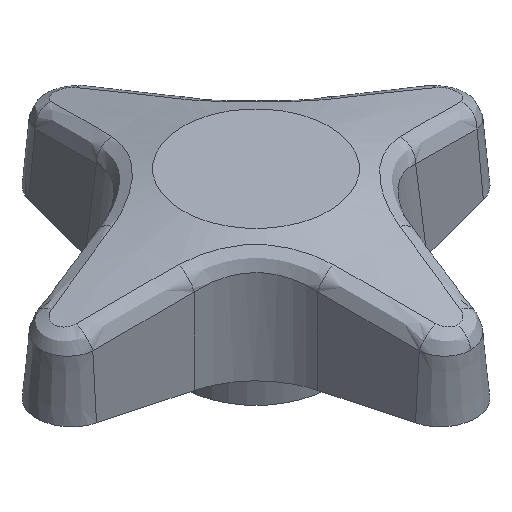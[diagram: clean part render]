
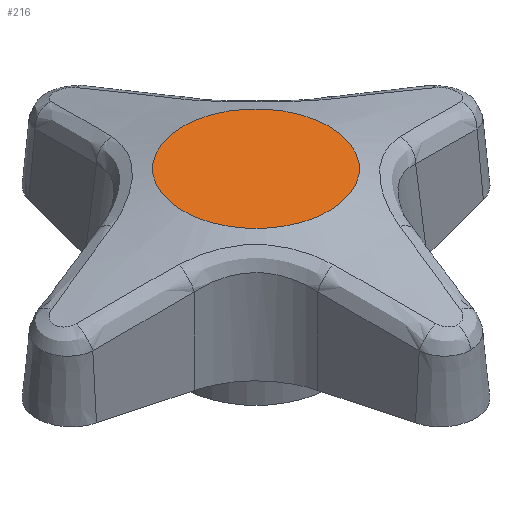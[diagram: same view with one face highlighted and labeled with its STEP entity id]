
A CAD part, isometric view. The second image highlights one B-rep face of the part: STEP entity #216.
In plain terms, the highlighted planar face has unit normal (0, 0, 1).
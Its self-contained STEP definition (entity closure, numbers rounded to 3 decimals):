
#200=CARTESIAN_POINT('',(0.,0.,26.2));
#201=DIRECTION('',(1.,0.,0.));
#202=DIRECTION('',(0.,0.,1.));
#203=AXIS2_PLACEMENT_3D('',#200,#202,#201);
#204=PLANE('',#203);
#205=CARTESIAN_POINT('',(0.,-12.5,26.2));
#206=VERTEX_POINT('',#205);
#207=CARTESIAN_POINT('',(0.,0.,26.2));
#208=DIRECTION('',(0.,-1.,0.));
#209=DIRECTION('',(0.,0.,1.));
#210=AXIS2_PLACEMENT_3D('',#207,#209,#208);
#211=CIRCLE('',#210,12.5);
#212=EDGE_CURVE('',#206,#206,#211,.T.);
#213=ORIENTED_EDGE('E77',*,*,#212,.T.);
#214=EDGE_LOOP('',(#213));
#215=FACE_OUTER_BOUND('',#214,.T.);
#216=ADVANCED_FACE('F28',(#215),#204,.T.);
